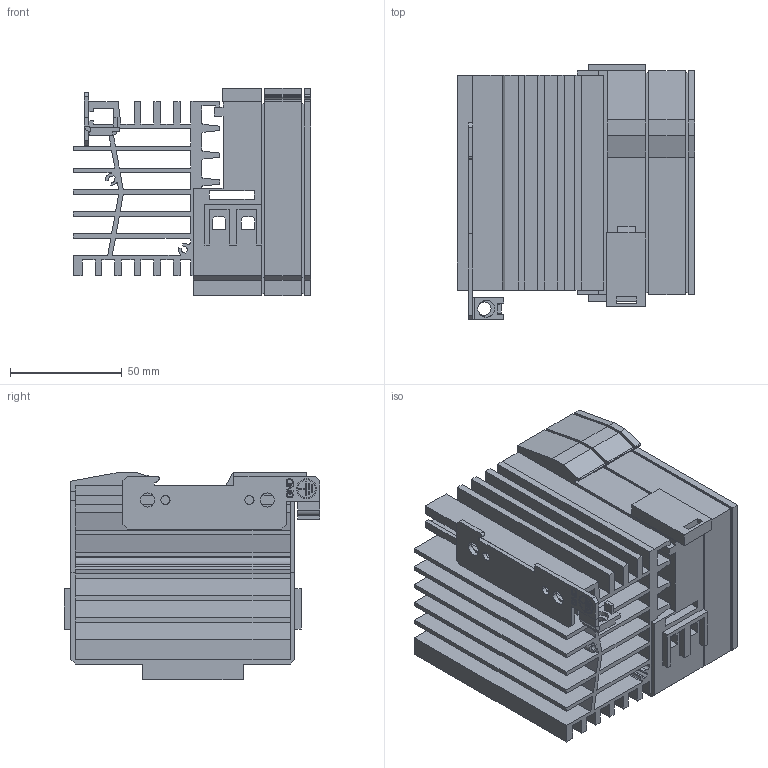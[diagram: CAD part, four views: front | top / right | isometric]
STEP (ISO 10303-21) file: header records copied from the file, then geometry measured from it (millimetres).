
FILE_DESCRIPTION((''),'2;1');
FILE_NAME('TE10_A_40A_IGES','2012-01-03T',('chrisloe'),(''),'PRO/ENGINEER BY PARAMETRIC TECHNOLOGY CORPORATION, 2010180','PRO/ENGINEER BY PARAMETRIC TECHNOLOGY CORPORATION, 2010180','');
FILE_SCHEMA(('CONFIG_CONTROL_DESIGN'));
Length unit declared in the file: millimetre
Products named in the file (1): TE10_A_40A_IGES
Bounding box: 106.12 x 114.3 x 92.7 mm (x, y, z)
Volume: 518345.6 mm3; surface area: 166059 mm2
Topology: 1 solids, 1 shells, 526 faces, 1492 edges, 979 vertices
Faces by surface type: plane 452, cylinder 66, cone 8
Entity records: 16930 total; most frequent: CARTESIAN_POINT 3004, ORIENTED_EDGE 2984, DIRECTION 2714, EDGE_CURVE 1492, VECTOR 1320, LINE 1320, VERTEX_POINT 979, AXIS2_PLACEMENT_3D 697
